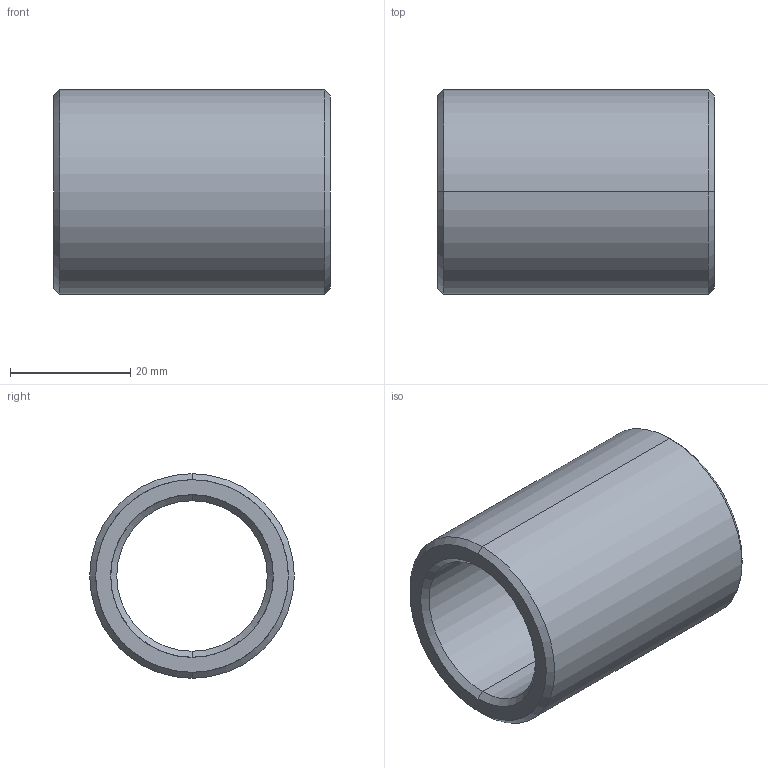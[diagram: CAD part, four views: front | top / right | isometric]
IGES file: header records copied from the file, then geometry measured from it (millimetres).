
Start section: START RECORD GO HERE.
Global section: file name: 352-25X46.igs; native system: DASSAULT SYSTEMES CATIA V5 R20 - www.3ds.com; preprocessor: CATIA Version 5 Release 20 ; author: Utente; organization: NB04-ASUS; date: 20210415.081112; units: millimetre
Bounding box: 46 x 34 x 34 mm (x, y, z)
Surface area: 9154.7 mm2 (no closed solid volume)
Topology: 0 solids, 0 shells, 14 faces, 88 edges, 88 vertices
Faces by surface type: revolution 12, plane 2
